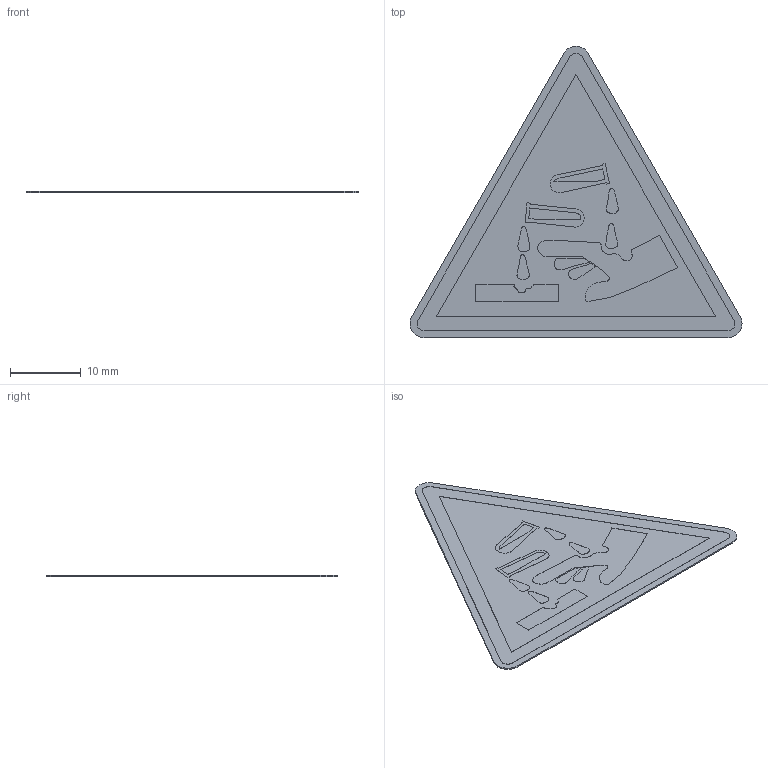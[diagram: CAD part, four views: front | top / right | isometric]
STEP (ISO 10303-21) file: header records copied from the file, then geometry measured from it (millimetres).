
FILE_DESCRIPTION (( 'STEP AP214' ), '1' );
FILE_NAME ('W023_Warnung vor ätzenden Stoffen.STEP', '2022-02-22T08:20:20', ( '' ), ( '' ), 'SwSTEP 2.0', 'SolidWorks 2021', '' );
FILE_SCHEMA (( 'AUTOMOTIVE_DESIGN' ));
Length unit declared in the file: millimetre
Products named in the file (1): W023_Warnung vor ätzenden Stoffen
Bounding box: 47.07 x 41.3 x 0.22 mm (x, y, z)
Volume: 221.8 mm3; surface area: 2186.3 mm2
Topology: 1 solids, 1 shells, 81 faces, 195 edges, 130 vertices
Faces by surface type: plane 54, bspline 14, cylinder 13
Entity records: 3888 total; most frequent: CARTESIAN_POINT 1265, ORIENTED_EDGE 390, DIRECTION 329, EDGE_CURVE 195, VECTOR 141, LINE 141, VERTEX_POINT 130, EDGE_LOOP 95
